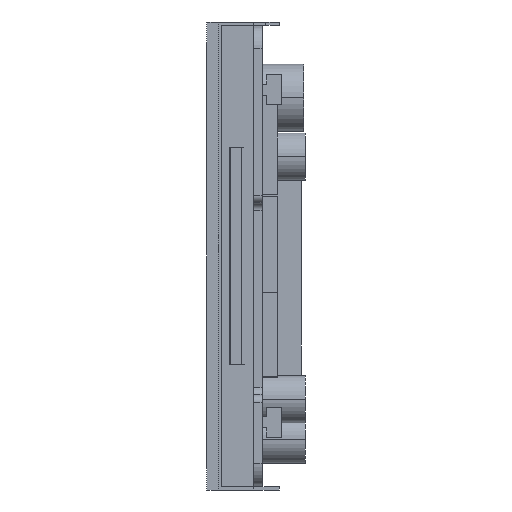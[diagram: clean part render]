
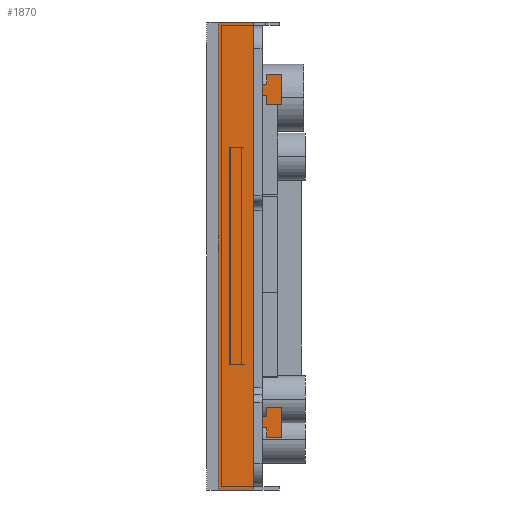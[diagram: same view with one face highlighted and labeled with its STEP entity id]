
A CAD part, left-side view. The second image highlights one B-rep face of the part: STEP entity #1870.
In plain terms, the highlighted planar face has unit normal (-1, 0, 0).
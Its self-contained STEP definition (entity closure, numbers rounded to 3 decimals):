
#34=DIRECTION('',(0.,0.,1.));
#35=VECTOR('',#34,42.5);
#36=CARTESIAN_POINT('',(-51.835,0.,-21.25));
#37=LINE('',#36,#35);
#83=DIRECTION('',(0.,0.,1.));
#84=VECTOR('',#83,8.23);
#85=CARTESIAN_POINT('',(-51.835,0.,22.75));
#86=LINE('',#85,#84);
#153=DIRECTION('',(0.,0.,1.));
#154=VECTOR('',#153,8.23);
#155=CARTESIAN_POINT('',(-51.835,0.,-30.98));
#156=LINE('',#155,#154);
#307=DIRECTION('',(0.,-1.,0.));
#308=VECTOR('',#307,1.7);
#309=CARTESIAN_POINT('',(-51.835,0.,-21.25));
#310=LINE('',#309,#308);
#314=DIRECTION('',(0.,0.,1.));
#315=VECTOR('',#314,1.25);
#316=CARTESIAN_POINT('',(-51.835,-1.7,-21.25));
#317=LINE('',#316,#315);
#321=DIRECTION('',(0.,-1.,0.));
#322=VECTOR('',#321,2.);
#323=CARTESIAN_POINT('',(-51.835,-1.7,-20.));
#324=LINE('',#323,#322);
#328=DIRECTION('',(0.,0.,1.));
#329=VECTOR('',#328,1.25);
#330=CARTESIAN_POINT('',(-51.835,-1.7,-24.));
#331=LINE('',#330,#329);
#335=DIRECTION('',(0.,1.,0.));
#336=VECTOR('',#335,1.7);
#337=CARTESIAN_POINT('',(-51.835,-1.7,-22.75));
#338=LINE('',#337,#336);
#342=DIRECTION('',(0.,1.,0.));
#343=VECTOR('',#342,4.7);
#344=CARTESIAN_POINT('',(-51.835,0.,-30.98));
#345=LINE('',#344,#343);
#349=DIRECTION('',(0.,-1.,0.));
#350=VECTOR('',#349,1.7);
#351=CARTESIAN_POINT('',(-51.835,0.,22.75));
#352=LINE('',#351,#350);
#356=DIRECTION('',(0.,0.,1.));
#357=VECTOR('',#356,1.25);
#358=CARTESIAN_POINT('',(-51.835,-1.7,22.75));
#359=LINE('',#358,#357);
#363=DIRECTION('',(0.,-1.,0.));
#364=VECTOR('',#363,2.);
#365=CARTESIAN_POINT('',(-51.835,-1.7,24.));
#366=LINE('',#365,#364);
#370=DIRECTION('',(0.,0.,1.));
#371=VECTOR('',#370,1.25);
#372=CARTESIAN_POINT('',(-51.835,-1.7,20.));
#373=LINE('',#372,#371);
#377=DIRECTION('',(0.,1.,0.));
#378=VECTOR('',#377,1.7);
#379=CARTESIAN_POINT('',(-51.835,-1.7,21.25));
#380=LINE('',#379,#378);
#741=DIRECTION('',(0.,1.,0.));
#742=VECTOR('',#741,4.7);
#743=CARTESIAN_POINT('',(-51.835,0.,30.98));
#744=LINE('',#743,#742);
#958=DIRECTION('',(0.,0.,1.));
#959=VECTOR('',#958,61.96);
#960=CARTESIAN_POINT('',(-51.835,4.7,-30.98));
#961=LINE('',#960,#959);
#1147=DIRECTION('',(0.,0.,-1.));
#1148=VECTOR('',#1147,4.);
#1149=CARTESIAN_POINT('',(-51.835,-3.7,24.));
#1150=LINE('',#1149,#1148);
#1182=DIRECTION('',(0.,0.,-1.));
#1183=VECTOR('',#1182,4.);
#1184=CARTESIAN_POINT('',(-51.835,-3.7,-20.));
#1185=LINE('',#1184,#1183);
#1210=DIRECTION('',(0.,-1.,0.));
#1211=VECTOR('',#1210,2.);
#1212=CARTESIAN_POINT('',(-51.835,-1.7,20.));
#1213=LINE('',#1212,#1211);
#1294=DIRECTION('',(0.,-1.,0.));
#1295=VECTOR('',#1294,2.);
#1296=CARTESIAN_POINT('',(-51.835,-1.7,-24.));
#1297=LINE('',#1296,#1295);
#1350=CARTESIAN_POINT('',(-51.835,4.7,-30.98));
#1351=CARTESIAN_POINT('',(-51.835,4.7,30.98));
#1352=VERTEX_POINT('',#1350);
#1353=VERTEX_POINT('',#1351);
#1358=CARTESIAN_POINT('',(-51.835,0.,-30.98));
#1359=VERTEX_POINT('',#1358);
#1360=CARTESIAN_POINT('',(-51.835,0.,30.98));
#1361=VERTEX_POINT('',#1360);
#1474=CARTESIAN_POINT('',(-51.835,-3.7,24.));
#1475=VERTEX_POINT('',#1474);
#1476=CARTESIAN_POINT('',(-51.835,-3.7,20.));
#1477=VERTEX_POINT('',#1476);
#1479=CARTESIAN_POINT('',(-51.835,-3.7,-20.));
#1481=VERTEX_POINT('',#1479);
#1482=CARTESIAN_POINT('',(-51.835,-3.7,-24.));
#1483=VERTEX_POINT('',#1482);
#1486=CARTESIAN_POINT('',(-51.835,0.,-21.25));
#1487=CARTESIAN_POINT('',(-51.835,-1.7,-21.25));
#1488=VERTEX_POINT('',#1486);
#1489=VERTEX_POINT('',#1487);
#1490=CARTESIAN_POINT('',(-51.835,-1.7,-20.));
#1491=VERTEX_POINT('',#1490);
#1492=CARTESIAN_POINT('',(-51.835,-1.7,-24.));
#1493=CARTESIAN_POINT('',(-51.835,-1.7,-22.75));
#1494=VERTEX_POINT('',#1492);
#1495=VERTEX_POINT('',#1493);
#1496=CARTESIAN_POINT('',(-51.835,0.,-22.75));
#1497=VERTEX_POINT('',#1496);
#1498=CARTESIAN_POINT('',(-51.835,-1.7,20.));
#1499=CARTESIAN_POINT('',(-51.835,-1.7,21.25));
#1500=VERTEX_POINT('',#1498);
#1501=VERTEX_POINT('',#1499);
#1502=CARTESIAN_POINT('',(-51.835,0.,21.25));
#1503=VERTEX_POINT('',#1502);
#1504=CARTESIAN_POINT('',(-51.835,0.,22.75));
#1505=CARTESIAN_POINT('',(-51.835,-1.7,22.75));
#1506=VERTEX_POINT('',#1504);
#1507=VERTEX_POINT('',#1505);
#1508=CARTESIAN_POINT('',(-51.835,-1.7,24.));
#1509=VERTEX_POINT('',#1508);
#1828=CARTESIAN_POINT('',(-51.835,0.,-30.98));
#1829=DIRECTION('',(-1.,0.,0.));
#1830=DIRECTION('',(0.,0.,1.));
#1831=AXIS2_PLACEMENT_3D('',#1828,#1829,#1830);
#1832=PLANE('',#1831);
#1833=ORIENTED_EDGE('',*,*,#1623,.F.);
#1835=ORIENTED_EDGE('',*,*,#1834,.T.);
#1837=ORIENTED_EDGE('',*,*,#1836,.T.);
#1839=ORIENTED_EDGE('',*,*,#1838,.T.);
#1841=ORIENTED_EDGE('',*,*,#1840,.T.);
#1843=ORIENTED_EDGE('',*,*,#1842,.F.);
#1845=ORIENTED_EDGE('',*,*,#1844,.T.);
#1847=ORIENTED_EDGE('',*,*,#1846,.T.);
#1848=ORIENTED_EDGE('',*,*,#1699,.F.);
#1849=ORIENTED_EDGE('',*,*,#1736,.T.);
#1851=ORIENTED_EDGE('',*,*,#1850,.T.);
#1853=ORIENTED_EDGE('',*,*,#1852,.F.);
#1854=ORIENTED_EDGE('',*,*,#1659,.F.);
#1856=ORIENTED_EDGE('',*,*,#1855,.T.);
#1858=ORIENTED_EDGE('',*,*,#1857,.T.);
#1860=ORIENTED_EDGE('',*,*,#1859,.T.);
#1862=ORIENTED_EDGE('',*,*,#1861,.T.);
#1864=ORIENTED_EDGE('',*,*,#1863,.F.);
#1866=ORIENTED_EDGE('',*,*,#1865,.T.);
#1867=ORIENTED_EDGE('',*,*,#1804,.T.);
#1868=EDGE_LOOP('',(#1833,#1835,#1837,#1839,#1841,#1843,#1845,#1847,#1848,#1849,
#1851,#1853,#1854,#1856,#1858,#1860,#1862,#1864,#1866,#1867));
#1869=FACE_OUTER_BOUND('',#1868,.F.);
#1623=EDGE_CURVE('',#1488,#1503,#37,.T.);
#1659=EDGE_CURVE('',#1506,#1361,#86,.T.);
#1699=EDGE_CURVE('',#1359,#1497,#156,.T.);
#1736=EDGE_CURVE('',#1359,#1352,#345,.T.);
#1804=EDGE_CURVE('',#1501,#1503,#380,.T.);
#1834=EDGE_CURVE('',#1488,#1489,#310,.T.);
#1836=EDGE_CURVE('',#1489,#1491,#317,.T.);
#1838=EDGE_CURVE('',#1491,#1481,#324,.T.);
#1840=EDGE_CURVE('',#1481,#1483,#1185,.T.);
#1842=EDGE_CURVE('',#1494,#1483,#1297,.T.);
#1844=EDGE_CURVE('',#1494,#1495,#331,.T.);
#1846=EDGE_CURVE('',#1495,#1497,#338,.T.);
#1850=EDGE_CURVE('',#1352,#1353,#961,.T.);
#1852=EDGE_CURVE('',#1361,#1353,#744,.T.);
#1855=EDGE_CURVE('',#1506,#1507,#352,.T.);
#1857=EDGE_CURVE('',#1507,#1509,#359,.T.);
#1859=EDGE_CURVE('',#1509,#1475,#366,.T.);
#1861=EDGE_CURVE('',#1475,#1477,#1150,.T.);
#1863=EDGE_CURVE('',#1500,#1477,#1213,.T.);
#1865=EDGE_CURVE('',#1500,#1501,#373,.T.);
#1870=ADVANCED_FACE('',(#1869),#1832,.T.);
